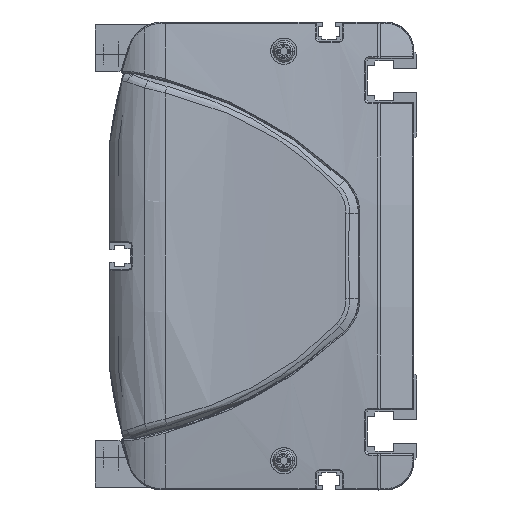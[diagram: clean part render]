
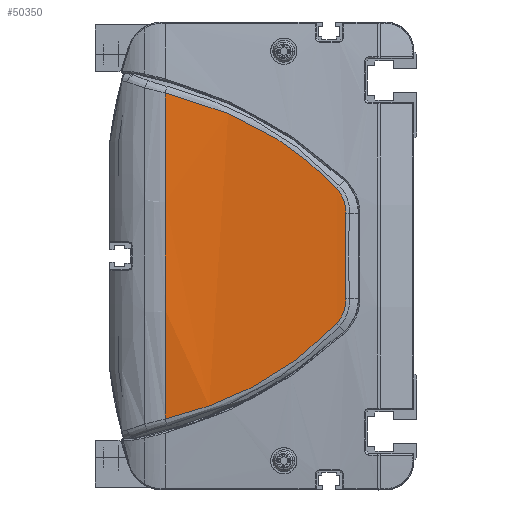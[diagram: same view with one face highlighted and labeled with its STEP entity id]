
A CAD part, left-side view. The second image highlights one B-rep face of the part: STEP entity #50350.
In plain terms, the highlighted cylindrical face has radius 600 mm (diameter 1200 mm), a partial arc.
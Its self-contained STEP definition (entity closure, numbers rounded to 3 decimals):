
#45381=CARTESIAN_POINT('',(-12.406,86.,
55.736));
#45382=CARTESIAN_POINT('',(-12.529,80.495,
54.41));
#45383=CARTESIAN_POINT('',(-12.828,69.636,
51.114));
#45384=CARTESIAN_POINT('',(-13.389,54.079,
44.179));
#45385=CARTESIAN_POINT('',(-14.01,39.709,
34.979));
#45386=CARTESIAN_POINT('',(-14.395,31.353,
27.243));
#45387=CARTESIAN_POINT('',(-14.555,27.451,
23.113));
#45389=CARTESIAN_POINT('',(-14.555,27.451,
23.113));
#45390=CARTESIAN_POINT('',(-14.641,25.336,
20.875));
#45391=CARTESIAN_POINT('',(-14.745,24.202,
17.745));
#45392=CARTESIAN_POINT('',(-14.821,24.351,
14.67));
#45394=CARTESIAN_POINT('',(-14.821,24.351,
14.67));
#45395=CARTESIAN_POINT('',(-14.9,24.51,
11.413));
#45396=CARTESIAN_POINT('',(-15.007,24.721,
4.895));
#45397=CARTESIAN_POINT('',(-15.007,24.721,
-4.895));
#45398=CARTESIAN_POINT('',(-14.9,24.51,
-11.413));
#45399=CARTESIAN_POINT('',(-14.821,24.351,
-14.67));
#45401=CARTESIAN_POINT('',(-14.821,24.351,
-14.67));
#45402=CARTESIAN_POINT('',(-14.745,24.202,
-17.745));
#45403=CARTESIAN_POINT('',(-14.641,25.337,
-20.876));
#45404=CARTESIAN_POINT('',(-14.555,27.451,
-23.113));
#45406=CARTESIAN_POINT('',(-14.555,27.451,
-23.113));
#45407=CARTESIAN_POINT('',(-14.395,31.353,
-27.243));
#45408=CARTESIAN_POINT('',(-14.01,39.709,
-34.979));
#45409=CARTESIAN_POINT('',(-13.389,54.079,
-44.179));
#45410=CARTESIAN_POINT('',(-12.828,69.636,
-51.114));
#45411=CARTESIAN_POINT('',(-12.529,80.495,
-54.41));
#45412=CARTESIAN_POINT('',(-12.406,86.,
-55.736));
#45414=CARTESIAN_POINT('',(585.,86.,0.));
#45415=DIRECTION('',(0.,1.,0.));
#45416=DIRECTION('',(-0.996,0.,-0.093));
#45417=AXIS2_PLACEMENT_3D('',#45414,#45415,#45416);
#45430=CARTESIAN_POINT('',(-12.406,86.,
55.736));
#45937=VERTEX_POINT('',#45430);
#45938=CARTESIAN_POINT('',(-12.406,86.,
-55.736));
#45939=VERTEX_POINT('',#45938);
#45991=VERTEX_POINT('',#45387);
#45992=VERTEX_POINT('',#45392);
#45993=VERTEX_POINT('',#45399);
#45994=VERTEX_POINT('',#45404);
#50332=CARTESIAN_POINT('',(585.,87.45,0.));
#50333=DIRECTION('',(0.,-1.,0.));
#50334=DIRECTION('',(0.,0.,-1.));
#50335=AXIS2_PLACEMENT_3D('',#50332,#50333,#50334);
#50336=CYLINDRICAL_SURFACE('',#50335,600.);
#50338=ORIENTED_EDGE('',*,*,#50337,.T.);
#50340=ORIENTED_EDGE('',*,*,#50339,.T.);
#50341=ORIENTED_EDGE('',*,*,#50322,.T.);
#50343=ORIENTED_EDGE('',*,*,#50342,.T.);
#50345=ORIENTED_EDGE('',*,*,#50344,.T.);
#50347=ORIENTED_EDGE('',*,*,#50346,.T.);
#50348=EDGE_LOOP('',(#50338,#50340,#50341,#50343,#50345,#50347));
#50349=FACE_OUTER_BOUND('',#50348,.F.);
#50350=ADVANCED_FACE('',(#50349),#50336,.T.);
#45388=B_SPLINE_CURVE_WITH_KNOTS('',3,(#45381,#45382,#45383,#45384,#45385,
#45386,#45387),.UNSPECIFIED.,.F.,.F.,(4,1,1,1,4),(0.,0.25,0.5,0.75,
1.),.UNSPECIFIED.);
#45393=B_SPLINE_CURVE_WITH_KNOTS('',3,(#45389,#45390,#45391,#45392),
.UNSPECIFIED.,.F.,.F.,(4,4),(0.,1.),.UNSPECIFIED.);
#45400=B_SPLINE_CURVE_WITH_KNOTS('',3,(#45394,#45395,#45396,#45397,#45398,
#45399),.UNSPECIFIED.,.F.,.F.,(4,1,1,4),(0.,0.333,
0.667,1.),.UNSPECIFIED.);
#45405=B_SPLINE_CURVE_WITH_KNOTS('',3,(#45401,#45402,#45403,#45404),
.UNSPECIFIED.,.F.,.F.,(4,4),(0.,1.),.UNSPECIFIED.);
#45413=B_SPLINE_CURVE_WITH_KNOTS('',3,(#45406,#45407,#45408,#45409,#45410,
#45411,#45412),.UNSPECIFIED.,.F.,.F.,(4,1,1,1,4),(0.,0.25,0.5,0.75,
1.),.UNSPECIFIED.);
#45418=CIRCLE('',#45417,600.);
#50322=EDGE_CURVE('',#45992,#45993,#45400,.T.);
#50337=EDGE_CURVE('',#45937,#45991,#45388,.T.);
#50339=EDGE_CURVE('',#45991,#45992,#45393,.T.);
#50342=EDGE_CURVE('',#45993,#45994,#45405,.T.);
#50344=EDGE_CURVE('',#45994,#45939,#45413,.T.);
#50346=EDGE_CURVE('',#45939,#45937,#45418,.T.);
